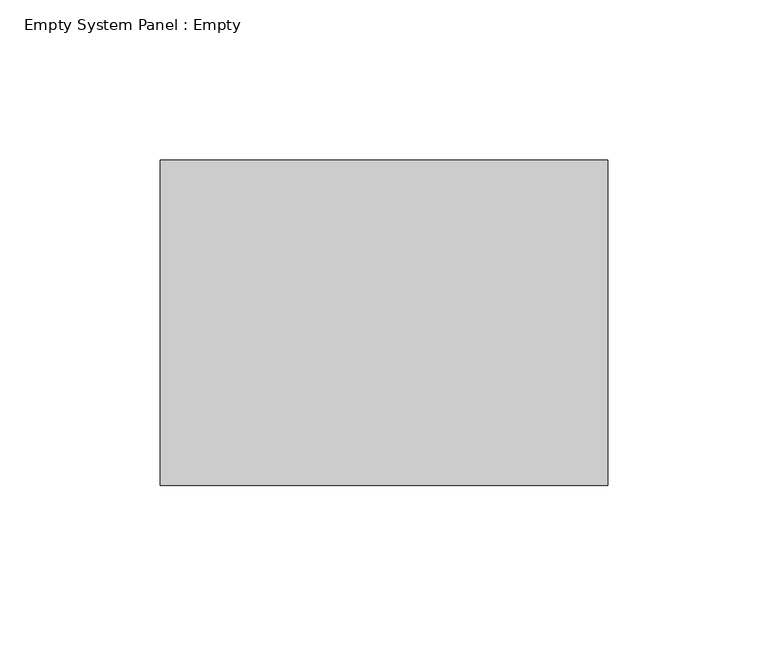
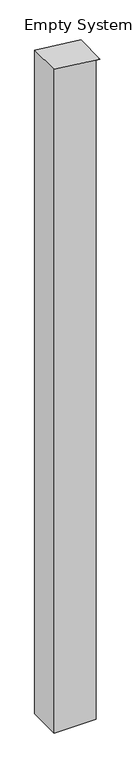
"""IFC4 building model written with IfcOpenShell, lengths in millimetres: plate geometry, Empty System Panel : Empty."""

from ifc_helpers import new_model, si_unit, frame, origin, place, context, project, spatial, polyline, outline, extrude, source, transform, mapped, element, save


def empty_system_panel_empty_a287578d(model_context):
    return source(origin(), model_context, "Body", "SweptSolid", [
        extrude(outline(polyline([(0.0, -69.85), (0.0, 57.15), (2110.6672043, 57.15), (2110.6672043, 69.85), (2126.2923943, -69.85), (0.0, -69.85)])), frame((0.0, -50.8, 0.0), z_axis=(0.0, 1.0, 0.0), x_axis=(0.0, 0.0, 1.0)), (0.0, 0.0, 1.0), 101.6),
    ])


if __name__ == "__main__":
    model = new_model("IFC4")
    model_context = context("Model", 3, world=origin())
    ifc_project = project(units=[si_unit("LENGTHUNIT", "METRE", prefix="MILLI")], contexts=[model_context])
    site = spatial("IfcSite", under=ifc_project)
    building = spatial("IfcBuilding", under=site)
    placement = place(None, origin())
    empty_system_panel_empty_shape = empty_system_panel_empty_a287578d(model_context)
    element("IfcPlate", 1, ObjectType="Empty System Panel : Empty", at=placement, inside=building, context=model_context, shape_type="MappedRepresentation", body=[
        mapped(empty_system_panel_empty_shape, transform((0.0, 0.0, 0.0), x_axis=(1.0, 0.0, 0.0), y_axis=(0.0, 1.0, 0.0), z_axis=(0.0, 0.0, 1.0))),
    ])
    save(model, "model.ifc")
